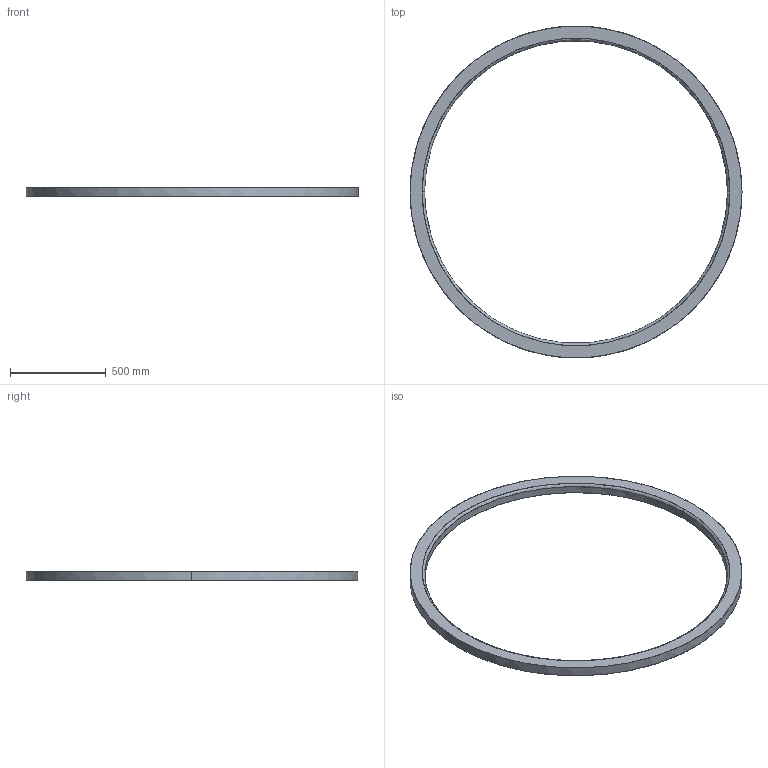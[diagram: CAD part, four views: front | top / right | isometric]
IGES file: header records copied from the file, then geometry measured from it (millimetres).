
Start section: Comment
Global section: file name: window_clamp.iges; native system:  By UGS Corp.; preprocessor: XPlus GENERIC/IGES 3.0; author: Author; organization: Title; date: 20090504.150917; units: millimetre
Bounding box: 1732.4 x 1730.24 x 50.8 mm (x, y, z)
Surface area: 1294602.3 mm2 (no closed solid volume)
Topology: 0 solids, 0 shells, 8 faces, 32 edges, 32 vertices
Faces by surface type: bspline 8
